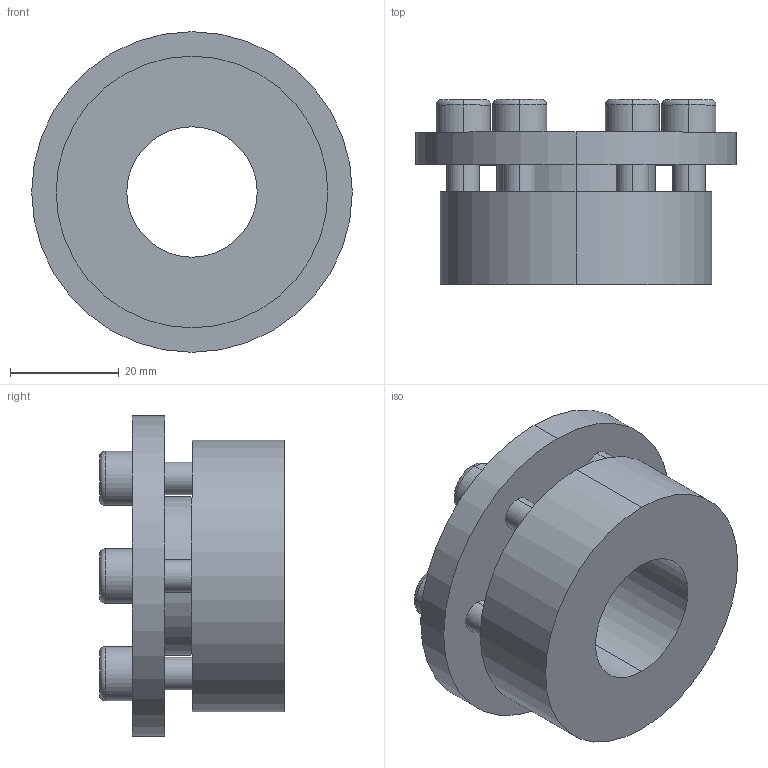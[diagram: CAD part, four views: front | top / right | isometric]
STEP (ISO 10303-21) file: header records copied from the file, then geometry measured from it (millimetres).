
FILE_DESCRIPTION (( 'STEP AP203' ), '1' );
FILE_NAME ('PL-H6 24-50.STEP', '2021-10-23T01:34:40', ( '' ), ( '' ), 'SwSTEP 2.0', 'SolidWorks 2018', '' );
FILE_SCHEMA (( 'CONFIG_CONTROL_DESIGN' ));
Length unit declared in the file: millimetre
Products named in the file (1): PL-H6 24-50
Bounding box: 59 x 34 x 59 mm (x, y, z)
Volume: 43712 mm3; surface area: 15088.5 mm2
Topology: 1 solids, 1 shells, 96 faces, 228 edges, 148 vertices
Faces by surface type: plane 52, cylinder 32, torus 12
Entity records: 2889 total; most frequent: DIRECTION 510, CARTESIAN_POINT 473, ORIENTED_EDGE 456, EDGE_CURVE 228, AXIS2_PLACEMENT_3D 185, VERTEX_POINT 148, LINE 140, VECTOR 140
